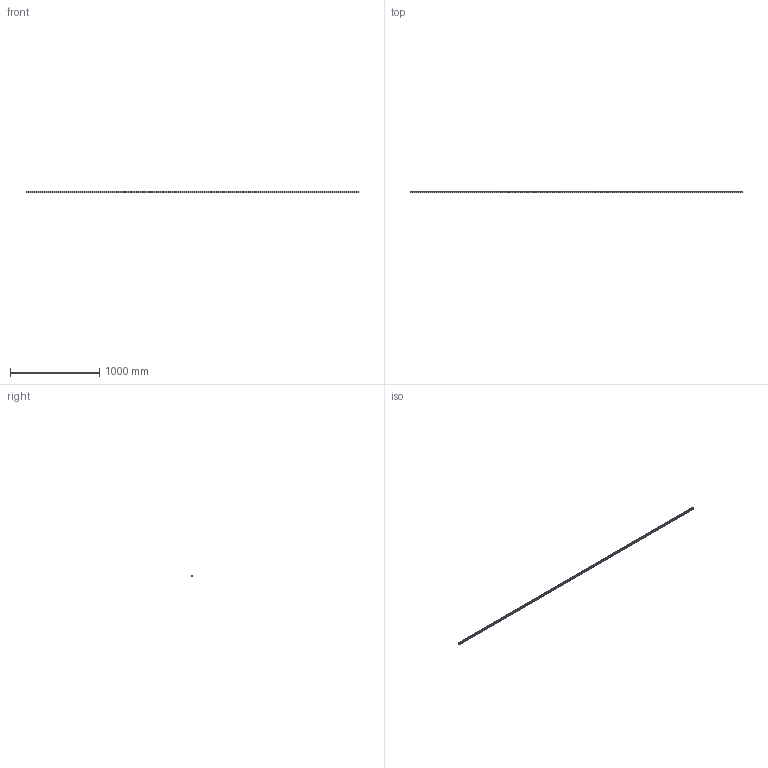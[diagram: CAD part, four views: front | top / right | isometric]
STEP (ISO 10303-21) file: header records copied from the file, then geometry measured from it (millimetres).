
FILE_DESCRIPTION (( 'STEP AP203' ), '1' );
FILE_NAME ('L1018.20R-3720.step', '2023-08-06T09:19:05', ( '' ), ( '' ), 'SwSTEP 2.0', 'SolidWorks 2019', '' );
FILE_SCHEMA (( 'CONFIG_CONTROL_DESIGN' ));
Length unit declared in the file: millimetre
Products named in the file (1): L1018.20R-3720
Bounding box: 3720 x 19.3 x 20 mm (x, y, z)
Volume: 1179717.2 mm3; surface area: 314589.5 mm2
Topology: 1 solids, 1 shells, 587 faces, 1321 edges, 736 vertices
Faces by surface type: cylinder 251, cone 248, plane 88
Entity records: 15506 total; most frequent: DIRECTION 2999, CARTESIAN_POINT 2521, ORIENTED_EDGE 2394, AXIS2_PLACEMENT_3D 1214, EDGE_CURVE 1197, VERTEX_POINT 736, EDGE_LOOP 711, CIRCLE 626
